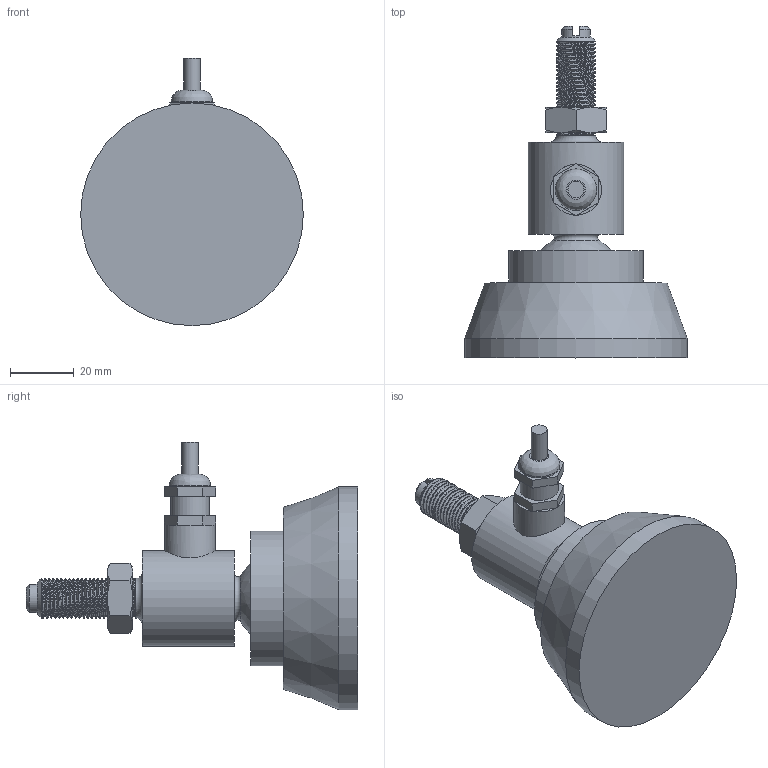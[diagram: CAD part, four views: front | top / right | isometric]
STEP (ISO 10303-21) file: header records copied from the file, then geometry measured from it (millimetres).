
FILE_DESCRIPTION(/* description */ (''),/* implementation_level */ '2;1');
FILE_NAME(/* name */ 'C:/Users/fardi/Dropbox/Anyload/Load Cell Models/3D Drawing/106/106MH-F/106MH-F-(1-2.5)klb v2.step',/* time_stamp */ '2020-01-31T12:03:48-08:00',/* author */ (''),/* organization */ (''),/* preprocessor_version */ 'ST-DEVELOPER v18',/* originating_system */ 'Autodesk Translation Framework v8.12.0.6',/* authorisation */ '');
FILE_SCHEMA (('AUTOMOTIVE_DESIGN { 1 0 10303 214 3 1 1 }'));
Length unit declared in the file: millimetre
Products named in the file (3): 106MH-F-(1-2.5)klb; Connector; 91847A525
Assembly tree (2 placements, depth 2):
  106MH-F-(1-2.5)klb
    Connector
    91847A525
Bounding box: 70 x 104.3 x 84.03 mm (x, y, z)
Volume: 124371.4 mm3; surface area: 22388 mm2
Topology: 3 solids, 3 shells, 147 faces, 371 edges, 242 vertices
Faces by surface type: cylinder 76, plane 41, cone 22, bspline 5, torus 2, sphere 1
Full cylindrical faces by diameter (mm): 5.1 x1, 9 x1, 10 x1, 11.05 x4, 11.156 x24, 12 x2, 12.512 x25, 12.7 x5, 13 x1, 16 x1, 30 x1, 42.3 x1, 70 x1
Entity records: 10852 total; most frequent: CARTESIAN_POINT 7545, ORIENTED_EDGE 740, DIRECTION 576, EDGE_CURVE 370, VERTEX_POINT 242, AXIS2_PLACEMENT_3D 224, EDGE_LOOP 162, FACE_OUTER_BOUND 147
